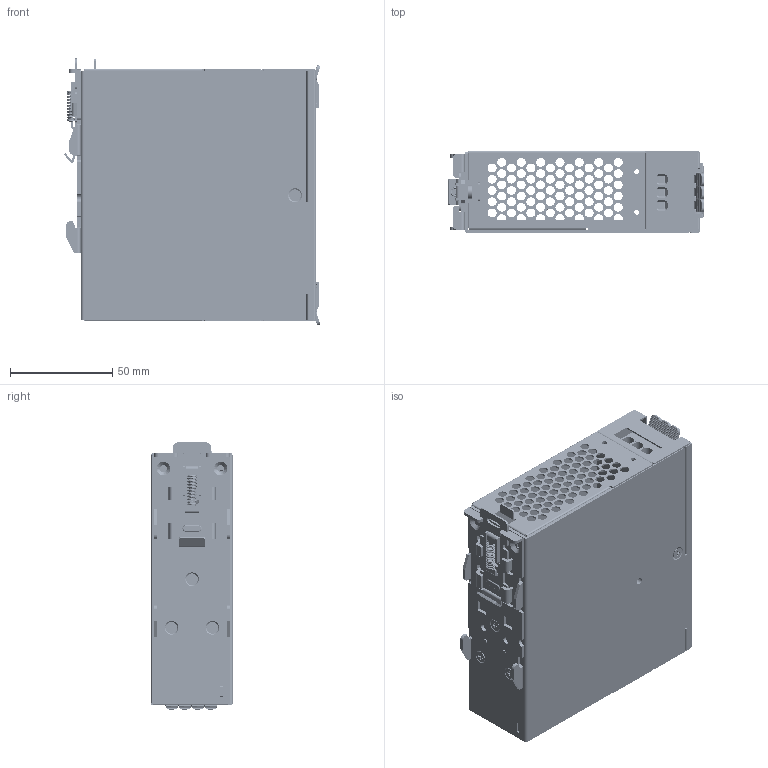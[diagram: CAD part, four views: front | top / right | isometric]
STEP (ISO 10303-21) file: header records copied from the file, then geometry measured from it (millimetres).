
FILE_DESCRIPTION((''),'2;1');
FILE_NAME('DRF-XXV240W1GTA_20231120_ASM','2023-11-20T14:24:12',('JOSH.LEE'),(''),'CREO PARAMETRIC BY PTC INC, 2020454','CREO PARAMETRIC BY PTC INC, 2020454','');
FILE_SCHEMA(('CONFIG_CONTROL_DESIGN','GEOMETRIC_VALIDATION_PROPERTIES_MIM'));
Products named in the file (35): 240W_NEW_CHASSIS_2; 240W_CHASSIS-STANDOFF_1; 240W-NEW-COVER-SHEETMETAL_3; 346654410101_3; 346008810000_2; 346202620000_2; BRACKET_3486195900_ASM_2_ASM; SCREW-FLAT-L5_2; 240W-CASE-ASM_ASM_4_ASM; 240W-PWB-MAIN_1; 240W-PWB-SMALL_1; 480W_NM02100A000G_2; 480W-LED_2; 480W-VR131_2; MSBR-16_1_1; MSBR-15_1_1; MSBR-14_1_1; MSBR-13_1_1; MSBR-12_1_2; MSBR-11_1_1; MSBR-10_1_1; MSBR-9_1_1; MSBR-8_1_1; MSBR-7_1_1; MSBR-6_1_1; MSBR-5_1_1; MSBR-4_1_1; MSBR-3_1_1; MSBR-2_1_1; MSBR-1_1_1; N6_3P_ASM_ASM_1_ASM_1_ASM; N6_4P_ASM_ASM_1_ASM_1_ASM; 240W-EE-PART_ASM_4_ASM; 240W-ASM_ASM_19_ASM; DRF-XXV240W1GTA_20231120_ASM
Assembly tree (59 placements, depth 5):
  DRF-XXV240W1GTA_20231120_ASM
    240W-ASM_ASM_19_ASM
      240W-CASE-ASM_ASM_4_ASM
        240W_NEW_CHASSIS_2
        240W_CHASSIS-STANDOFF_1
        240W-NEW-COVER-SHEETMETAL_3
        BRACKET_3486195900_ASM_2_ASM
          346654410101_3
          346008810000_2
          346202620000_2
        SCREW-FLAT-L5_2  x5
      240W-EE-PART_ASM_4_ASM
        240W-PWB-MAIN_1
        240W-PWB-SMALL_1
        480W_NM02100A000G_2
        480W-LED_2
        480W-VR131_2
        N6_3P_ASM_ASM_1_ASM_1_ASM
          MSBR-16_1_1
          MSBR-15_1_1
          MSBR-14_1_1
          MSBR-13_1_1
          MSBR-12_1_2
          MSBR-11_1_1
          MSBR-10_1_1
          MSBR-9_1_1
          MSBR-8_1_1
          MSBR-7_1_1
          MSBR-6_1_1
          MSBR-5_1_1
          MSBR-4_1_1
          MSBR-3_1_1
          MSBR-2_1_1
          MSBR-1_1_1
        N6_4P_ASM_ASM_1_ASM_1_ASM
          MSBR-16_1_1
          MSBR-15_1_1  x2
          MSBR-14_1_1
          MSBR-13_1_1
          MSBR-12_1_2  x2
          MSBR-11_1_1
          MSBR-10_1_1
          MSBR-9_1_1
          MSBR-8_1_1  x2
          MSBR-7_1_1
          MSBR-6_1_1  x2
          MSBR-5_1_1
          MSBR-3_1_1
          MSBR-2_1_1  x2
          MSBR-1_1_1
          MSBR-4_1_1
Bounding box: 125.59 x 40 x 130.8 mm (x, y, z)
Volume: 92376.2 mm3; surface area: 164033.3 mm2
Topology: 53 solids, 60 shells, 10283 faces, 28032 edges, 18047 vertices
Faces by surface type: plane 5112, cylinder 3533, cone 662, torus 477, bspline 437, sphere 48, extrusion 14
Entity records: 223386 total; most frequent: CARTESIAN_POINT 61092, ORIENTED_EDGE 30964, DIRECTION 30959, EDGE_CURVE 15482, AXIS2_PLACEMENT_3D 10677, VERTEX_POINT 9986, VECTOR 9605, LINE 9596
